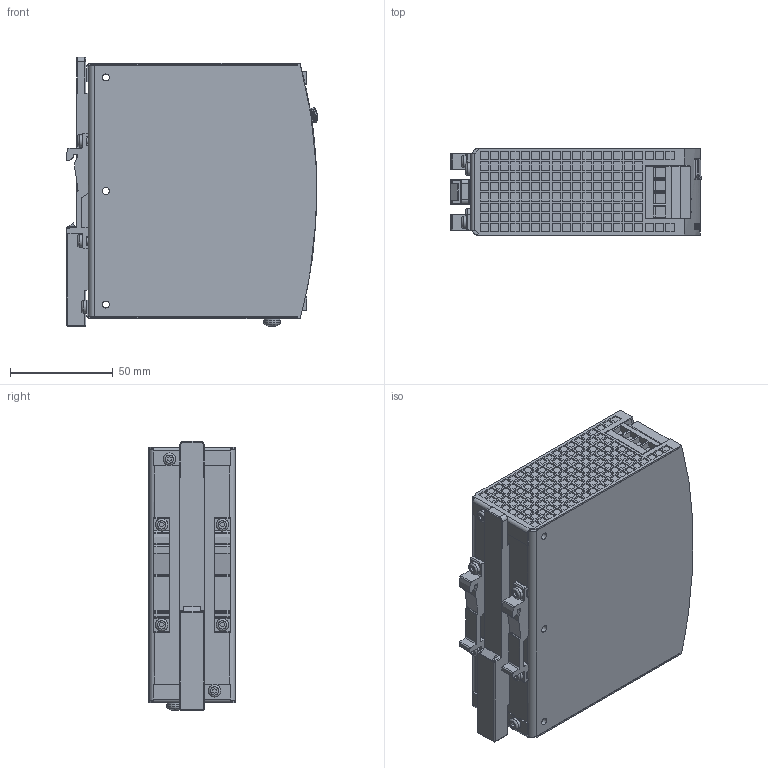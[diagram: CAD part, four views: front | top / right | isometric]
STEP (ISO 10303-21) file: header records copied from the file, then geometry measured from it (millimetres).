
FILE_DESCRIPTION(/* description */ ('PS_42x124x117'),/* implementation_level */ '2;1');
FILE_NAME(/* name */ 'C:\Users\Frankwe\Desktop\Neuer Ordner\0000016734_PS9711-2410-0000_2023-10-17.stp',/* time_stamp */ '2023-10-17T14:39:44+02:00',/* author */ ('FrankWe'),/* organization */ (''),/* preprocessor_version */ 'ST-DEVELOPER v18.1',/* originating_system */ 'Autodesk Inventor 2022',/* authorisation */ '');
FILE_SCHEMA (('AUTOMOTIVE_DESIGN { 1 0 10303 214 3 1 1 }'));
Products named in the file (1): 0000016734_PS9711-2410-0000_mit_Aufkleber
Bounding box: 121.97 x 42 x 130.77 mm (x, y, z)
Volume: 572641.7 mm3; surface area: 70298.8 mm2
Topology: 1 solids, 4 shells, 2160 faces, 6194 edges, 4101 vertices
Faces by surface type: plane 1751, cylinder 212, bspline 149, torus 23, sphere 13, cone 12
Full cylindrical faces by diameter (mm): 3 x6, 3.1 x4, 3.375 x1, 3.4 x3, 3.621 x1, 3.85 x1, 4 x1, 4.355 x1, 4.5 x2, 5.15 x7, 6 x6
Entity records: 78786 total; most frequent: CARTESIAN_POINT 20074, ORIENTED_EDGE 12382, DIRECTION 10532, EDGE_CURVE 6191, LINE 5158, VECTOR 5158, VERTEX_POINT 4101, EDGE_LOOP 2812
